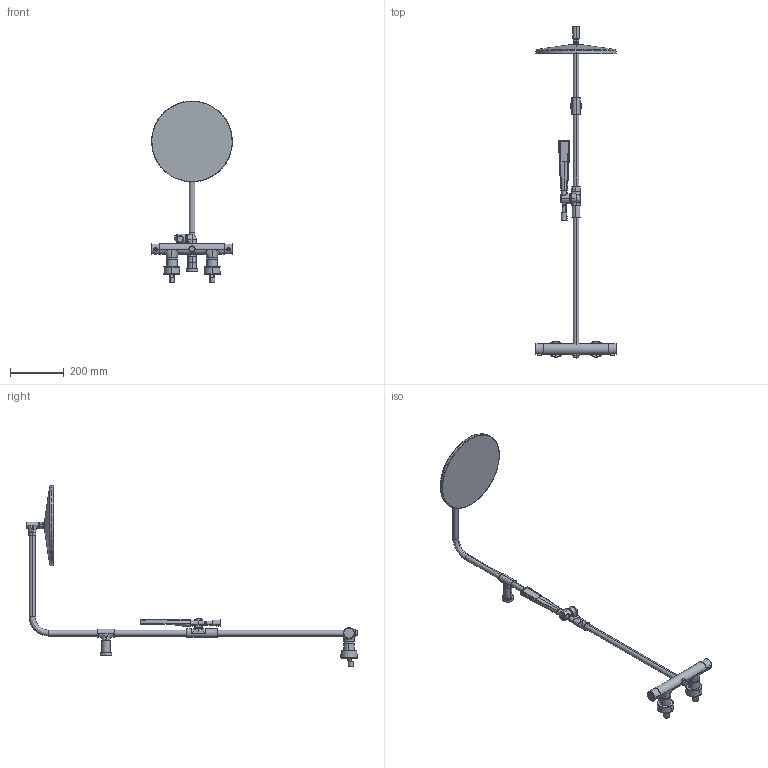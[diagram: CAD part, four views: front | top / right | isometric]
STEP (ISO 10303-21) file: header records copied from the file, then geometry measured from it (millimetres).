
FILE_DESCRIPTION (( 'STEP AP203' ), '1' );
FILE_NAME ('47199113(2024).STEP', '2024-04-23T05:44:50', ( '' ), ( '' ), 'SwSTEP 2.0', 'SolidWorks 2016', '' );
FILE_SCHEMA (( 'CONFIG_CONTROL_DESIGN' ));
Products named in the file (1): 47199113(2024)
Bounding box: 300 x 1233.59 x 675.65 mm (x, y, z)
Volume: 3200213.1 mm3; surface area: 447860 mm2
Topology: 25 solids, 25 shells, 665 faces, 1626 edges, 998 vertices
Faces by surface type: bspline 335, cylinder 119, plane 102, cone 40, torus 39, sphere 30
Entity records: 45821 total; most frequent: CARTESIAN_POINT 32418, ORIENTED_EDGE 3200, DIRECTION 2265, EDGE_CURVE 1600, AXIS2_PLACEMENT_3D 1006, VERTEX_POINT 998, EDGE_LOOP 678, CIRCLE 675
